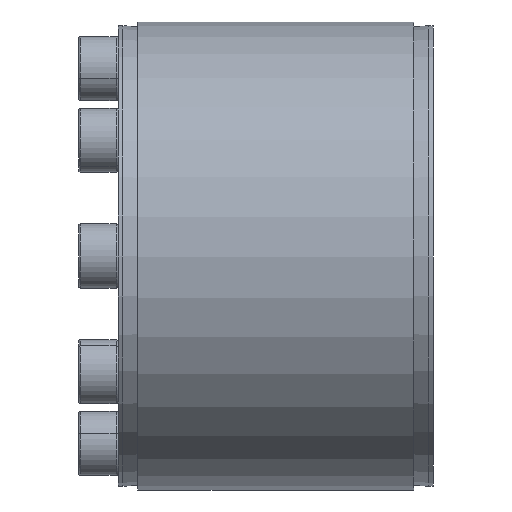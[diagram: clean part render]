
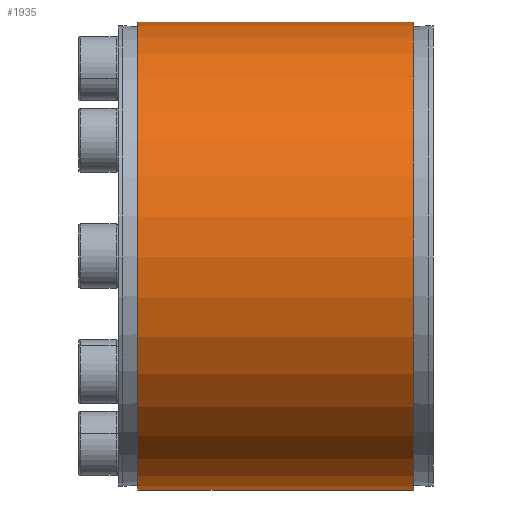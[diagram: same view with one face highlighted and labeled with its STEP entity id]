
A CAD part, front view. The second image highlights one B-rep face of the part: STEP entity #1935.
In plain terms, the highlighted cylindrical face has radius 47.5 mm (diameter 95 mm), a partial arc.
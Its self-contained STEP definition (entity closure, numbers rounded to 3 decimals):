
#67 = DIRECTION ( 'NONE',  ( -1., 0., 0. ) ) ;
#69 = EDGE_CURVE ( 'NONE', #2313, #3481, #3152, .T. ) ;
#74 = DIRECTION ( 'NONE',  ( -1., 0., 0. ) ) ;
#100 = AXIS2_PLACEMENT_3D ( 'NONE', #448, #2279, #2006 ) ;
#155 = EDGE_CURVE ( 'NONE', #3586, #2203, #2342, .T. ) ;
#183 = CIRCLE ( 'NONE', #100, 47.5 ) ;
#245 = ORIENTED_EDGE ( 'NONE', *, *, #966, .F. ) ;
#291 = FACE_OUTER_BOUND ( 'NONE', #2771, .T. ) ;
#305 = DIRECTION ( 'NONE',  ( 1., 0., 0. ) ) ;
#448 = CARTESIAN_POINT ( 'NONE',  ( 60., 0., 0. ) ) ;
#710 = DIRECTION ( 'NONE',  ( -1., 0., 0. ) ) ;
#731 = CYLINDRICAL_SURFACE ( 'NONE', #3478, 47.5 ) ;
#778 = ORIENTED_EDGE ( 'NONE', *, *, #155, .T. ) ;
#966 = EDGE_CURVE ( 'NONE', #2313, #2203, #3178, .T. ) ;
#1481 = EDGE_CURVE ( 'NONE', #3481, #3586, #183, .T. ) ;
#1575 = DIRECTION ( 'NONE',  ( 0., 0., 1. ) ) ;
#1700 = CARTESIAN_POINT ( 'NONE',  ( 4., -0.5, 47.497 ) ) ;
#1743 = ORIENTED_EDGE ( 'NONE', *, *, #1481, .T. ) ;
#1935 = ADVANCED_FACE ( 'NONE', ( #291 ), #731, .T. ) ;
#1943 = DIRECTION ( 'NONE',  ( 0., 0., 1. ) ) ;
#2006 = DIRECTION ( 'NONE',  ( 0., 0., 1. ) ) ;
#2031 = CARTESIAN_POINT ( 'NONE',  ( 60., 0.5, 47.497 ) ) ;
#2203 = VERTEX_POINT ( 'NONE', #1700 ) ;
#2279 = DIRECTION ( 'NONE',  ( -1., 0., 0. ) ) ;
#2313 = VERTEX_POINT ( 'NONE', #3333 ) ;
#2342 = LINE ( 'NONE', #3780, #2627 ) ;
#2496 = CARTESIAN_POINT ( 'NONE',  ( 0., 0., 0. ) ) ;
#2627 = VECTOR ( 'NONE', #67, 1000. ) ;
#2635 = CARTESIAN_POINT ( 'NONE',  ( 60., -0.5, 47.497 ) ) ;
#2771 = EDGE_LOOP ( 'NONE', ( #245, #2849, #1743, #778 ) ) ;
#2849 = ORIENTED_EDGE ( 'NONE', *, *, #69, .T. ) ;
#2962 = VECTOR ( 'NONE', #305, 1000. ) ;
#3152 = LINE ( 'NONE', #3702, #2962 ) ;
#3178 = CIRCLE ( 'NONE', #3829, 47.5 ) ;
#3333 = CARTESIAN_POINT ( 'NONE',  ( 4., 0.5, 47.497 ) ) ;
#3478 = AXIS2_PLACEMENT_3D ( 'NONE', #2496, #74, #1575 ) ;
#3481 = VERTEX_POINT ( 'NONE', #2031 ) ;
#3499 = CARTESIAN_POINT ( 'NONE',  ( 4., 0., 0. ) ) ;
#3586 = VERTEX_POINT ( 'NONE', #2635 ) ;
#3702 = CARTESIAN_POINT ( 'NONE',  ( 0., 0.5, 47.497 ) ) ;
#3780 = CARTESIAN_POINT ( 'NONE',  ( 0., -0.5, 47.497 ) ) ;
#3829 = AXIS2_PLACEMENT_3D ( 'NONE', #3499, #710, #1943 ) ;
